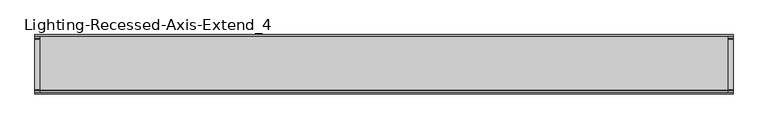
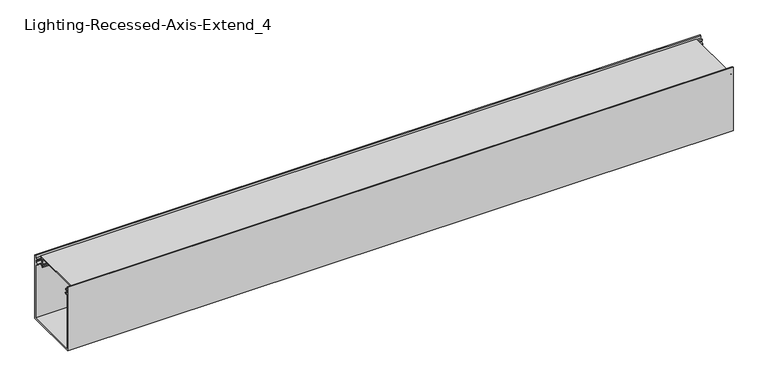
"""IFC4 building model written with IfcOpenShell, lengths in millimetres: light fixture geometry, Lighting-Recessed-Axis-Extend_4 : EX4R-900-80-35-SO-4."""

from ifc_helpers import new_model, si_unit, point, frame, frame_2d, origin, place, context, project, spatial, polyline, circle_curve, trimmed, segment, composite_curve, outline, extrude, source, transform, mapped, element, save


def lighting_recessed_axis_extend_4_c019952e(model_context):
    return source(origin(), model_context, "Body", "SweptSolid", [
        extrude(outline(composite_curve([segment(polyline([(-44.9537362, -4.8895009), (-45.2924281, -11.3521263)]), True, "CONTINUOUS"), segment(trimmed(circle_curve(frame_2d((-48.03521, -14.351)), 4.064), [point((-45.2924281, -11.3521263))], [point((-46.1628914, -17.9580097))], False, "CARTESIAN"), True, "CONTINUOUS"), segment(trimmed(circle_curve(frame_2d((-42.930354, -17.1691543)), 3.3274001), [point((-46.1628914, -17.9580097))], [point((-45.3476056, -19.4557425))], True, "CARTESIAN"), True, "CONTINUOUS"), segment(trimmed(circle_curve(frame_2d((-37.9113277, -12.4214292)), 10.2362001), [point((-45.3476056, -19.4557425))], [point((-43.9929166, -20.6551445))], True, "CARTESIAN"), True, "CONTINUOUS"), segment(trimmed(circle_curve(frame_2d((-44.4833673, -21.3191538)), 0.8255), [point((-43.9929166, -20.6551445))], [point((-44.973818, -21.9831631))], False, "CARTESIAN"), True, "CONTINUOUS"), segment(trimmed(circle_curve(frame_2d((-37.9113269, -12.4214283)), 11.8872013), [point((-44.973818, -21.9831631))], [point((-46.5470052, -20.5903092))], False, "CARTESIAN"), True, "CONTINUOUS"), segment(trimmed(circle_curve(frame_2d((-42.930354, -17.1691543)), 4.9784001), [point((-46.5470052, -20.5903092))], [point((-47.8918907, -16.75974))], False, "CARTESIAN"), True, "CONTINUOUS"), segment(trimmed(circle_curve(frame_2d((-48.03521, -14.351)), 2.413), [point((-47.8918907, -16.75974))], [point((-46.2564041, -12.7205342))], True, "CARTESIAN"), True, "CONTINUOUS"), segment(trimmed(circle_curve(frame_2d((-44.3839769, -11.0042544)), 2.54), [point((-46.2564041, -12.7205342))], [point((-46.9204959, -10.8713211))], False, "CARTESIAN"), True, "CONTINUOUS"), segment(polyline([(-46.9204959, -10.8713211), (-46.607002, -4.8895009), (-49.61001, -4.8895009), (-49.61001, -2.9845), (49.61001, -2.9845), (49.61001, -4.8895009), (46.607002, -4.8895009), (46.9204959, -10.8713211)]), True, "CONTINUOUS"), segment(trimmed(circle_curve(frame_2d((44.3839769, -11.0042544)), 2.54), [point((46.9204959, -10.8713211))], [point((46.2564041, -12.7205342))], False, "CARTESIAN"), True, "CONTINUOUS"), segment(trimmed(circle_curve(frame_2d((48.03521, -14.351)), 2.413), [point((46.2564041, -12.7205342))], [point((47.8918907, -16.75974))], True, "CARTESIAN"), True, "CONTINUOUS"), segment(trimmed(circle_curve(frame_2d((42.930354, -17.1691543)), 4.9784001), [point((47.8918907, -16.75974))], [point((46.5470052, -20.5903092))], False, "CARTESIAN"), True, "CONTINUOUS"), segment(trimmed(circle_curve(frame_2d((37.9113269, -12.4214283)), 11.8872013), [point((46.5470052, -20.5903092))], [point((44.973818, -21.9831631))], False, "CARTESIAN"), True, "CONTINUOUS"), segment(trimmed(circle_curve(frame_2d((44.4833673, -21.3191538)), 0.8255), [point((44.973818, -21.9831631))], [point((43.9929166, -20.6551445))], False, "CARTESIAN"), True, "CONTINUOUS"), segment(trimmed(circle_curve(frame_2d((37.9113277, -12.4214292)), 10.2362001), [point((43.9929166, -20.6551445))], [point((45.3476056, -19.4557425))], True, "CARTESIAN"), True, "CONTINUOUS"), segment(trimmed(circle_curve(frame_2d((42.930354, -17.1691543)), 3.3274001), [point((45.3476056, -19.4557425))], [point((46.1628914, -17.9580097))], True, "CARTESIAN"), True, "CONTINUOUS"), segment(trimmed(circle_curve(frame_2d((48.03521, -14.351)), 4.064), [point((46.1628914, -17.9580097))], [point((45.2924281, -11.3521263))], False, "CARTESIAN"), True, "CONTINUOUS"), segment(polyline([(45.2924281, -11.3521263), (44.9537362, -4.8895009), (-44.9537362, -4.8895009)]), True, "CONTINUOUS")], self_intersect=False)), frame((-609.6, 0.0, 0.0), z_axis=(1.0, 0.0, 0.0), x_axis=(0.0, 1.0, 0.0)), (0.0, 0.0, 1.0), 1219.2),
        extrude(outline(composite_curve([segment(polyline([(-50.75301, -14.9098), (-50.75301, -122.7455), (50.75301, -122.7455), (50.75301, -14.9098), (48.9135897, -14.9098)]), True, "CONTINUOUS"), segment(trimmed(circle_curve(frame_2d((47.4072397, -14.9098)), 1.5063501), [point((48.9135897, -14.9098))], [point((46.6540646, -16.2143374))], False, "CARTESIAN"), True, "CONTINUOUS"), segment(trimmed(circle_curve(frame_2d((47.8452221, -14.1511921)), 2.382315), [point((46.6540646, -16.2143374))], [point((45.4706616, -13.9591318))], False, "CARTESIAN"), True, "CONTINUOUS"), segment(polyline([(45.4706616, -13.9591318), (48.84801, -11.1252), (48.84801, -12.8778), (50.75301, -12.8778), (50.75301, -6.35), (48.84801, -6.35), (48.84801, -7.874), (47.19701, -7.7874748), (47.19701, -5.08), (50.75301, -5.08), (50.75301, 0.0), (52.78501, 0.0), (52.78501, -124.7775), (-52.78501, -124.7775), (-52.78501, 0.0), (-50.75301, 0.0), (-50.75301, -5.08), (-47.19701, -5.08), (-47.19701, -7.7874748), (-48.84801, -7.874), (-48.84801, -6.35), (-50.75301, -6.35), (-50.75301, -12.8778), (-48.84801, -12.8778), (-48.84801, -11.1252), (-45.4706616, -13.9591318)]), True, "CONTINUOUS"), segment(trimmed(circle_curve(frame_2d((-47.8452221, -14.1511921)), 2.382315), [point((-45.4706616, -13.9591318))], [point((-46.6540646, -16.2143374))], False, "CARTESIAN"), True, "CONTINUOUS"), segment(trimmed(circle_curve(frame_2d((-47.4072397, -14.9098)), 1.5063501), [point((-46.6540646, -16.2143374))], [point((-48.9135897, -14.9098))], False, "CARTESIAN"), True, "CONTINUOUS"), segment(polyline([(-48.9135897, -14.9098), (-50.75301, -14.9098)]), True, "CONTINUOUS")], self_intersect=False)), frame((-618.7567, 0.0, 0.0), z_axis=(1.0, 0.0, 0.0), x_axis=(0.0, 1.0, 0.0)), (0.0, 0.0, 1.0), 1237.5134),
    ])


if __name__ == "__main__":
    model = new_model("IFC4")
    model_context = context("Model", 3, world=origin())
    ifc_project = project(units=[si_unit("LENGTHUNIT", "METRE", prefix="MILLI")], contexts=[model_context])
    site = spatial("IfcSite", under=ifc_project)
    building = spatial("IfcBuilding", under=site)
    placement = place(None, origin())
    lighting_recessed_axis_extend_4_shape = lighting_recessed_axis_extend_4_c019952e(model_context)
    element("IfcLightFixture", 1, ObjectType="Lighting-Recessed-Axis-Extend_4 : EX4R-900-80-35-SO-4", at=placement, inside=building, context=model_context, shape_type="MappedRepresentation", body=[
        mapped(lighting_recessed_axis_extend_4_shape, transform((0.0, 0.0, 0.0), x_axis=(1.0, 0.0, 0.0), y_axis=(0.0, 1.0, 0.0), z_axis=(0.0, 0.0, 1.0))),
    ])
    save(model, "model.ifc")
